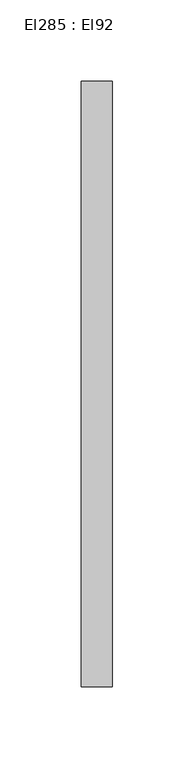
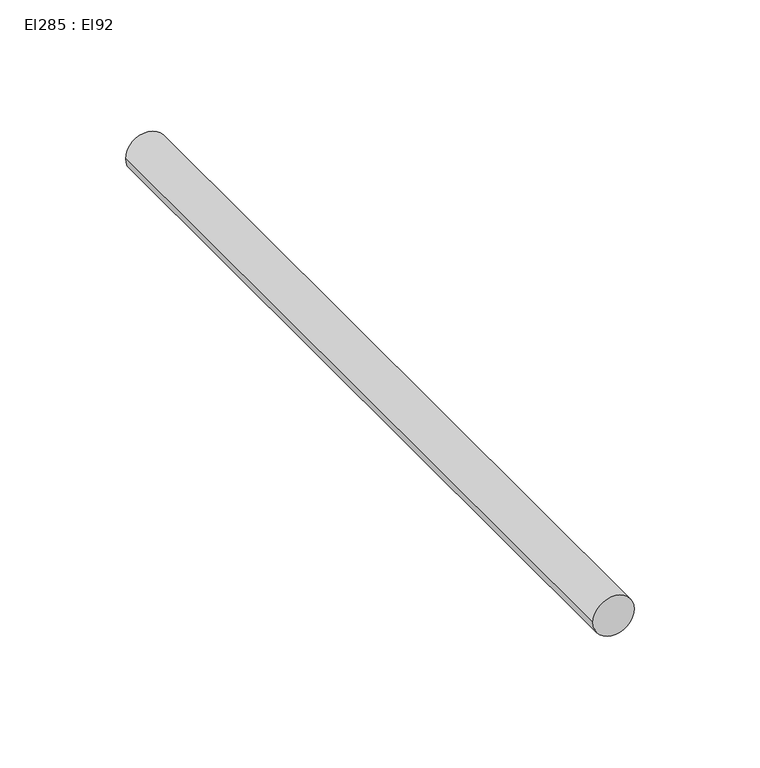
"""IFC4 building model written with IfcOpenShell, lengths in millimetres: cable carrier segment geometry, El285 : El92."""

from ifc_helpers import new_model, si_unit, point, frame, frame_2d, origin, place, context, project, spatial, circle_curve, trimmed, segment, composite_curve, outline, extrude, source, transform, mapped, element, save


def el285_el92_8ea3c803(model_context):
    return source(origin(), model_context, "Body", "SweptSolid", [
        extrude(outline(composite_curve([segment(trimmed(circle_curve(frame_2d((1800.0, 19844.4746511)), 9.5), [point((1800.0, 19834.9746511))], [point((1800.0, 19853.9746511))], False, "CARTESIAN"), True, "CONTINUOUS"), segment(trimmed(circle_curve(frame_2d((1800.0, 19844.4746511)), 9.5), [point((1800.0, 19853.9746511))], [point((1800.0, 19834.9746511))], False, "CARTESIAN"), True, "CONTINUOUS")], self_intersect=False)), frame((0.0, 8845.6361745, 0.0), z_axis=(0.0, 1.0, 0.0), x_axis=(0.0, 0.0, 1.0)), (0.0, 0.0, 1.0), 371.952),
    ])


if __name__ == "__main__":
    model = new_model("IFC4")
    model_context = context("Model", 3, world=origin())
    ifc_project = project(units=[si_unit("LENGTHUNIT", "METRE", prefix="MILLI")], contexts=[model_context])
    site = spatial("IfcSite", under=ifc_project)
    building = spatial("IfcBuilding", under=site)
    placement = place(None, origin())
    el285_el92_shape = el285_el92_8ea3c803(model_context)
    element("IfcCableCarrierSegment", 1, ObjectType="El285 : El92", at=placement, inside=building, context=model_context, shape_type="MappedRepresentation", body=[
        mapped(el285_el92_shape, transform((0.0, 0.0, 0.0), x_axis=(1.0, 0.0, 0.0), y_axis=(0.0, 1.0, 0.0), z_axis=(0.0, 0.0, 1.0))),
    ])
    save(model, "model.ifc")
